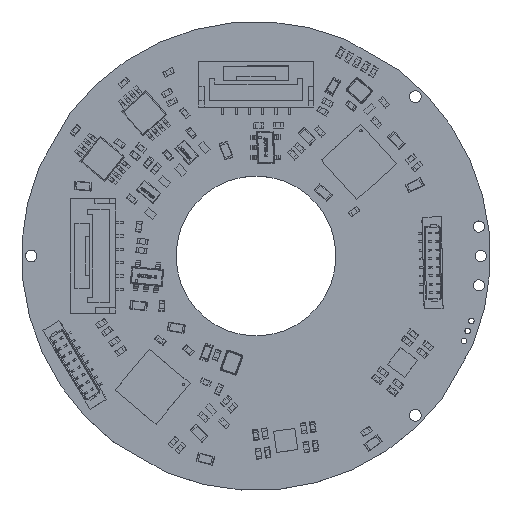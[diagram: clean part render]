
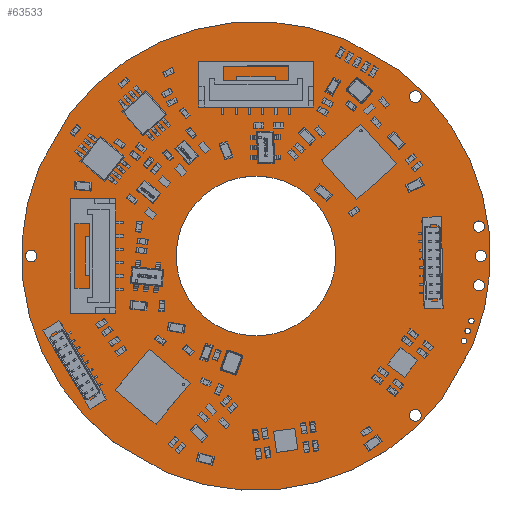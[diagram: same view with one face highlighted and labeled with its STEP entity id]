
A CAD part, top view. The second image highlights one B-rep face of the part: STEP entity #63533.
In plain terms, the highlighted planar face has unit normal (0, 0, 1).
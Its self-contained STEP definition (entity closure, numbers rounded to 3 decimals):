
#16001=LINE('',#243186,#33807);
#16005=LINE('',#243198,#33811);
#16009=LINE('',#243210,#33815);
#16012=LINE('',#243219,#33818);
#33807=VECTOR('',#197614,1.);
#33811=VECTOR('',#197626,1.);
#33815=VECTOR('',#197638,1.);
#33818=VECTOR('',#197649,1.);
#63533=ADVANCED_FACE('',(#77247,#77248,#77249,#77250,#77251,#77252,#77253,
#77254,#77255,#77256,#77257),#72183,.F.);
#72183=PLANE('',#176317);
#77247=FACE_BOUND('',#79777,.T.);
#77248=FACE_BOUND('',#79778,.T.);
#77249=FACE_BOUND('',#79779,.T.);
#77250=FACE_BOUND('',#79780,.T.);
#77251=FACE_BOUND('',#79781,.T.);
#77252=FACE_BOUND('',#79782,.T.);
#77253=FACE_BOUND('',#79783,.T.);
#77254=FACE_BOUND('',#79784,.T.);
#77255=FACE_BOUND('',#79785,.T.);
#77256=FACE_BOUND('',#79786,.T.);
#77257=FACE_BOUND('',#79787,.T.);
#79777=EDGE_LOOP('',(#98507,#98508,#98509,#98510,#98511,#98512,#98513,#98514));
#79778=EDGE_LOOP('',(#98515));
#79779=EDGE_LOOP('',(#98516));
#79780=EDGE_LOOP('',(#98517));
#79781=EDGE_LOOP('',(#98518));
#79782=EDGE_LOOP('',(#98519));
#79783=EDGE_LOOP('',(#98520));
#79784=EDGE_LOOP('',(#98521));
#79785=EDGE_LOOP('',(#98522));
#79786=EDGE_LOOP('',(#98523));
#79787=EDGE_LOOP('',(#98524));
#98507=ORIENTED_EDGE('',*,*,#152064,.T.);
#98508=ORIENTED_EDGE('',*,*,#152068,.T.);
#98509=ORIENTED_EDGE('',*,*,#152071,.T.);
#98510=ORIENTED_EDGE('',*,*,#152074,.T.);
#98511=ORIENTED_EDGE('',*,*,#152077,.T.);
#98512=ORIENTED_EDGE('',*,*,#152080,.T.);
#98513=ORIENTED_EDGE('',*,*,#152083,.T.);
#98514=ORIENTED_EDGE('',*,*,#152085,.T.);
#98515=ORIENTED_EDGE('',*,*,#152086,.F.);
#98516=ORIENTED_EDGE('',*,*,#152088,.F.);
#98517=ORIENTED_EDGE('',*,*,#152090,.F.);
#98518=ORIENTED_EDGE('',*,*,#152092,.F.);
#98519=ORIENTED_EDGE('',*,*,#152094,.F.);
#98520=ORIENTED_EDGE('',*,*,#152096,.F.);
#98521=ORIENTED_EDGE('',*,*,#152098,.F.);
#98522=ORIENTED_EDGE('',*,*,#152100,.F.);
#98523=ORIENTED_EDGE('',*,*,#152102,.F.);
#98524=ORIENTED_EDGE('',*,*,#152104,.F.);
#135698=VERTEX_POINT('',#243177);
#135699=VERTEX_POINT('',#243179);
#135701=VERTEX_POINT('',#243185);
#135703=VERTEX_POINT('',#243191);
#135705=VERTEX_POINT('',#243197);
#135707=VERTEX_POINT('',#243203);
#135709=VERTEX_POINT('',#243209);
#135711=VERTEX_POINT('',#243215);
#135712=VERTEX_POINT('',#243222);
#135714=VERTEX_POINT('',#243227);
#135716=VERTEX_POINT('',#243232);
#135718=VERTEX_POINT('',#243237);
#135720=VERTEX_POINT('',#243242);
#135722=VERTEX_POINT('',#243247);
#135724=VERTEX_POINT('',#243252);
#135726=VERTEX_POINT('',#243257);
#135728=VERTEX_POINT('',#243262);
#135730=VERTEX_POINT('',#243267);
#152064=EDGE_CURVE('',#135699,#135698,#169843,.T.);
#152068=EDGE_CURVE('',#135698,#135701,#16001,.T.);
#152071=EDGE_CURVE('',#135701,#135703,#169845,.T.);
#152074=EDGE_CURVE('',#135703,#135705,#16005,.T.);
#152077=EDGE_CURVE('',#135705,#135707,#169847,.T.);
#152080=EDGE_CURVE('',#135707,#135709,#16009,.T.);
#152083=EDGE_CURVE('',#135709,#135711,#169849,.T.);
#152085=EDGE_CURVE('',#135711,#135699,#16012,.T.);
#152086=EDGE_CURVE('',#135712,#135712,#169850,.T.);
#152088=EDGE_CURVE('',#135714,#135714,#169852,.T.);
#152090=EDGE_CURVE('',#135716,#135716,#169854,.T.);
#152092=EDGE_CURVE('',#135718,#135718,#169856,.T.);
#152094=EDGE_CURVE('',#135720,#135720,#169858,.T.);
#152096=EDGE_CURVE('',#135722,#135722,#169860,.T.);
#152098=EDGE_CURVE('',#135724,#135724,#169862,.T.);
#152100=EDGE_CURVE('',#135726,#135726,#169864,.T.);
#152102=EDGE_CURVE('',#135728,#135728,#169866,.T.);
#152104=EDGE_CURVE('',#135730,#135730,#169868,.T.);
#169843=CIRCLE('',#176271,22.);
#169845=CIRCLE('',#176275,22.);
#169847=CIRCLE('',#176279,22.);
#169849=CIRCLE('',#176283,22.);
#169850=CIRCLE('',#176286,0.267);
#169852=CIRCLE('',#176289,0.525);
#169854=CIRCLE('',#176292,0.267);
#169856=CIRCLE('',#176295,0.267);
#169858=CIRCLE('',#176298,0.55);
#169860=CIRCLE('',#176301,0.525);
#169862=CIRCLE('',#176304,0.55);
#169864=CIRCLE('',#176307,0.525);
#169866=CIRCLE('',#176310,7.5);
#169868=CIRCLE('',#176313,0.55);
#176271=AXIS2_PLACEMENT_3D('',#243178,#197607,#197608);
#176275=AXIS2_PLACEMENT_3D('',#243192,#197620,#197621);
#176279=AXIS2_PLACEMENT_3D('',#243204,#197632,#197633);
#176283=AXIS2_PLACEMENT_3D('',#243216,#197644,#197645);
#176286=AXIS2_PLACEMENT_3D('',#243221,#197652,#197653);
#176289=AXIS2_PLACEMENT_3D('',#243226,#197658,#197659);
#176292=AXIS2_PLACEMENT_3D('',#243231,#197664,#197665);
#176295=AXIS2_PLACEMENT_3D('',#243236,#197670,#197671);
#176298=AXIS2_PLACEMENT_3D('',#243241,#197676,#197677);
#176301=AXIS2_PLACEMENT_3D('',#243246,#197682,#197683);
#176304=AXIS2_PLACEMENT_3D('',#243251,#197688,#197689);
#176307=AXIS2_PLACEMENT_3D('',#243256,#197694,#197695);
#176310=AXIS2_PLACEMENT_3D('',#243261,#197700,#197701);
#176313=AXIS2_PLACEMENT_3D('',#243266,#197706,#197707);
#176317=AXIS2_PLACEMENT_3D('',#243272,#197714,#197715);
#197607=DIRECTION('',(0.,0.,1.));
#197608=DIRECTION('',(0.925,-0.379,0.));
#197614=DIRECTION('',(-0.866,0.5,0.));
#197620=DIRECTION('',(0.,0.,1.));
#197621=DIRECTION('',(0.379,0.925,0.));
#197626=DIRECTION('',(-0.5,-0.866,0.));
#197632=DIRECTION('',(0.,0.,1.));
#197633=DIRECTION('',(-0.925,0.379,0.));
#197638=DIRECTION('',(0.866,-0.5,0.));
#197644=DIRECTION('',(0.,0.,1.));
#197645=DIRECTION('',(-0.379,-0.925,0.));
#197649=DIRECTION('',(0.5,0.866,0.));
#197652=DIRECTION('',(0.,0.,1.));
#197653=DIRECTION('',(-0.866,0.5,0.));
#197658=DIRECTION('',(0.,0.,1.));
#197659=DIRECTION('',(-0.866,0.5,0.));
#197664=DIRECTION('',(0.,0.,1.));
#197665=DIRECTION('',(-0.866,0.5,0.));
#197670=DIRECTION('',(0.,0.,1.));
#197671=DIRECTION('',(-0.866,0.5,0.));
#197676=DIRECTION('',(0.,0.,1.));
#197677=DIRECTION('',(-0.866,0.5,0.));
#197682=DIRECTION('',(0.,0.,1.));
#197683=DIRECTION('',(-0.866,0.5,0.));
#197688=DIRECTION('',(0.,0.,1.));
#197689=DIRECTION('',(-0.866,0.5,0.));
#197694=DIRECTION('',(0.,0.,1.));
#197695=DIRECTION('',(-0.866,0.5,0.));
#197700=DIRECTION('',(0.,0.,1.));
#197701=DIRECTION('',(-0.866,0.5,0.));
#197706=DIRECTION('',(0.,0.,1.));
#197707=DIRECTION('',(-0.866,0.5,0.));
#197714=DIRECTION('',(0.,0.,-1.));
#197715=DIRECTION('',(-0.866,0.5,0.));
#243177=CARTESIAN_POINT('',(13.463,17.399,3.8));
#243178=CARTESIAN_POINT('',(0.,0.,
3.8));
#243179=CARTESIAN_POINT('',(20.359,-8.337,3.8));
#243185=CARTESIAN_POINT('',(8.337,20.359,3.8));
#243186=CARTESIAN_POINT('',(13.463,17.399,3.8));
#243191=CARTESIAN_POINT('',(-17.399,13.463,3.8));
#243192=CARTESIAN_POINT('',(0.,0.,
3.8));
#243197=CARTESIAN_POINT('',(-20.359,8.337,3.8));
#243198=CARTESIAN_POINT('',(-17.399,13.463,3.8));
#243203=CARTESIAN_POINT('',(-13.463,-17.4,3.8));
#243204=CARTESIAN_POINT('',(0.,0.,
3.8));
#243209=CARTESIAN_POINT('',(-8.337,-20.359,3.8));
#243210=CARTESIAN_POINT('',(-13.463,-17.4,3.8));
#243215=CARTESIAN_POINT('',(17.4,-13.463,3.8));
#243216=CARTESIAN_POINT('',(0.,0.,
3.8));
#243219=CARTESIAN_POINT('',(17.4,-13.463,3.8));
#243221=CARTESIAN_POINT('',(20.197,-6.093,3.8));
#243222=CARTESIAN_POINT('',(19.966,-5.96,3.8));
#243226=CARTESIAN_POINT('',(20.914,-2.76,3.8));
#243227=CARTESIAN_POINT('',(20.46,-2.498,3.8));
#243231=CARTESIAN_POINT('',(19.529,-7.978,3.8));
#243232=CARTESIAN_POINT('',(19.298,-7.845,3.8));
#243236=CARTESIAN_POINT('',(19.863,-7.036,3.8));
#243237=CARTESIAN_POINT('',(19.632,-6.902,3.8));
#243241=CARTESIAN_POINT('',(14.961,-14.949,3.8));
#243242=CARTESIAN_POINT('',(14.484,-14.674,3.8));
#243246=CARTESIAN_POINT('',(20.914,2.76,3.8));
#243247=CARTESIAN_POINT('',(20.46,3.023,3.8));
#243251=CARTESIAN_POINT('',(14.961,14.949,3.8));
#243252=CARTESIAN_POINT('',(14.484,15.224,3.8));
#243256=CARTESIAN_POINT('',(21.092,0.,3.8));
#243257=CARTESIAN_POINT('',(20.638,0.263,3.8));
#243261=CARTESIAN_POINT('',(0.,0.,3.8));
#243262=CARTESIAN_POINT('',(-6.495,3.75,3.8));
#243266=CARTESIAN_POINT('',(-21.1,0.,3.8));
#243267=CARTESIAN_POINT('',(-21.576,0.275,3.8));
#243272=CARTESIAN_POINT('',(20.359,-8.337,3.8));
